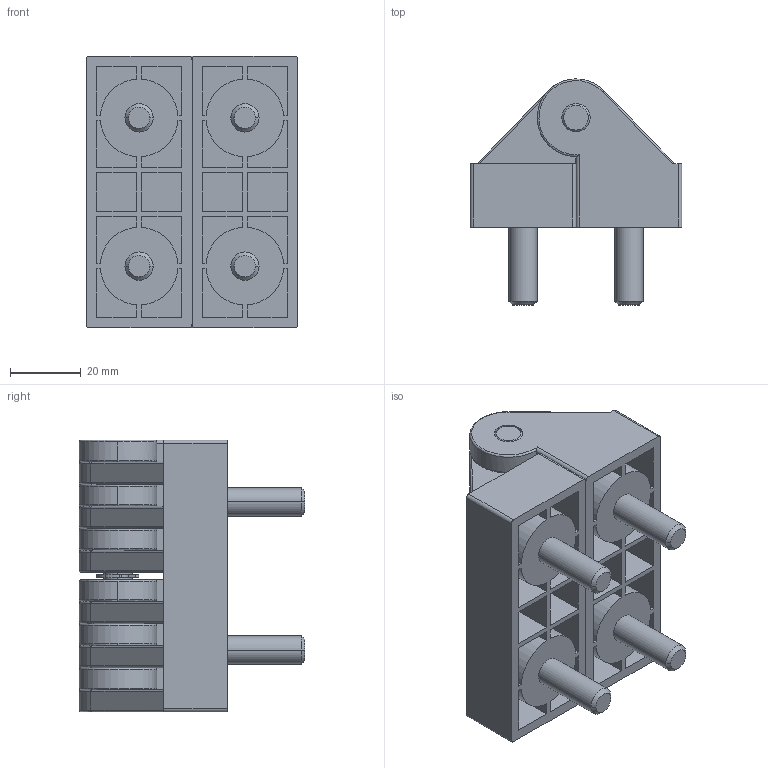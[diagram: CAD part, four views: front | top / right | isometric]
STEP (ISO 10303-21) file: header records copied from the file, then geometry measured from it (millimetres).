
FILE_DESCRIPTION (( 'STEP AP203' ), '1' );
FILE_NAME ('B56 KH-P22.STEP', '2010-10-11T05:35:47', ( ' ' ), ( '' ), 'SwSTEP 2.0', 'SolidWorks 2010', '' );
FILE_SCHEMA (( 'CONFIG_CONTROL_DESIGN' ));
Length unit declared in the file: millimetre
Products named in the file (4): H022-00-1-002; B56 KH-P22; H022-00-1-001; E rings GB_GB_CONNECTING_PIECE_RINGS_HR 6
Assembly tree (4 placements, depth 2):
  B56 KH-P22
    H022-00-1-002
    H022-00-1-001  x2
    E rings GB_GB_CONNECTING_PIECE_RINGS_HR 6
Bounding box: 60 x 64 x 77 mm (x, y, z)
Volume: 106067.5 mm3; surface area: 52741.4 mm2
Topology: 8 solids, 8 shells, 340 faces, 868 edges, 566 vertices
Faces by surface type: plane 166, cylinder 126, bspline 36, cone 12
Entity records: 8034 total; most frequent: CARTESIAN_POINT 3048, ORIENTED_EDGE 964, DIRECTION 939, EDGE_CURVE 482, AXIS2_PLACEMENT_3D 328, VERTEX_POINT 315, VECTOR 283, LINE 283
